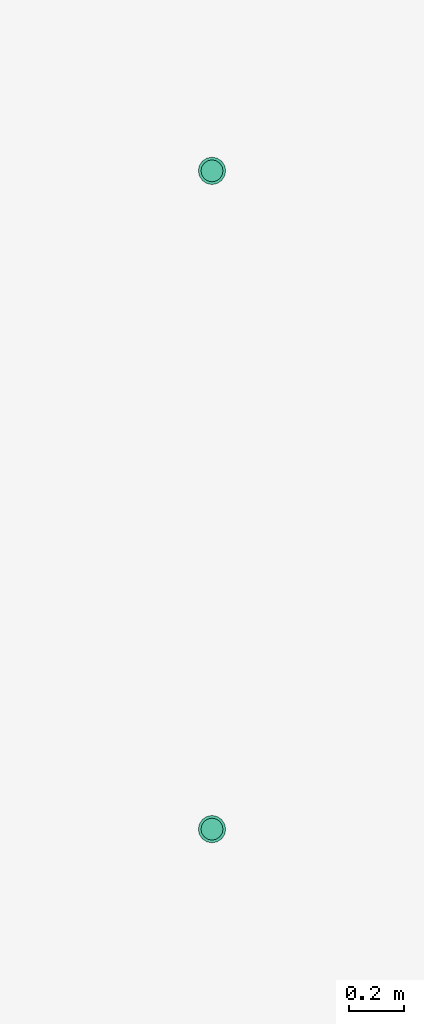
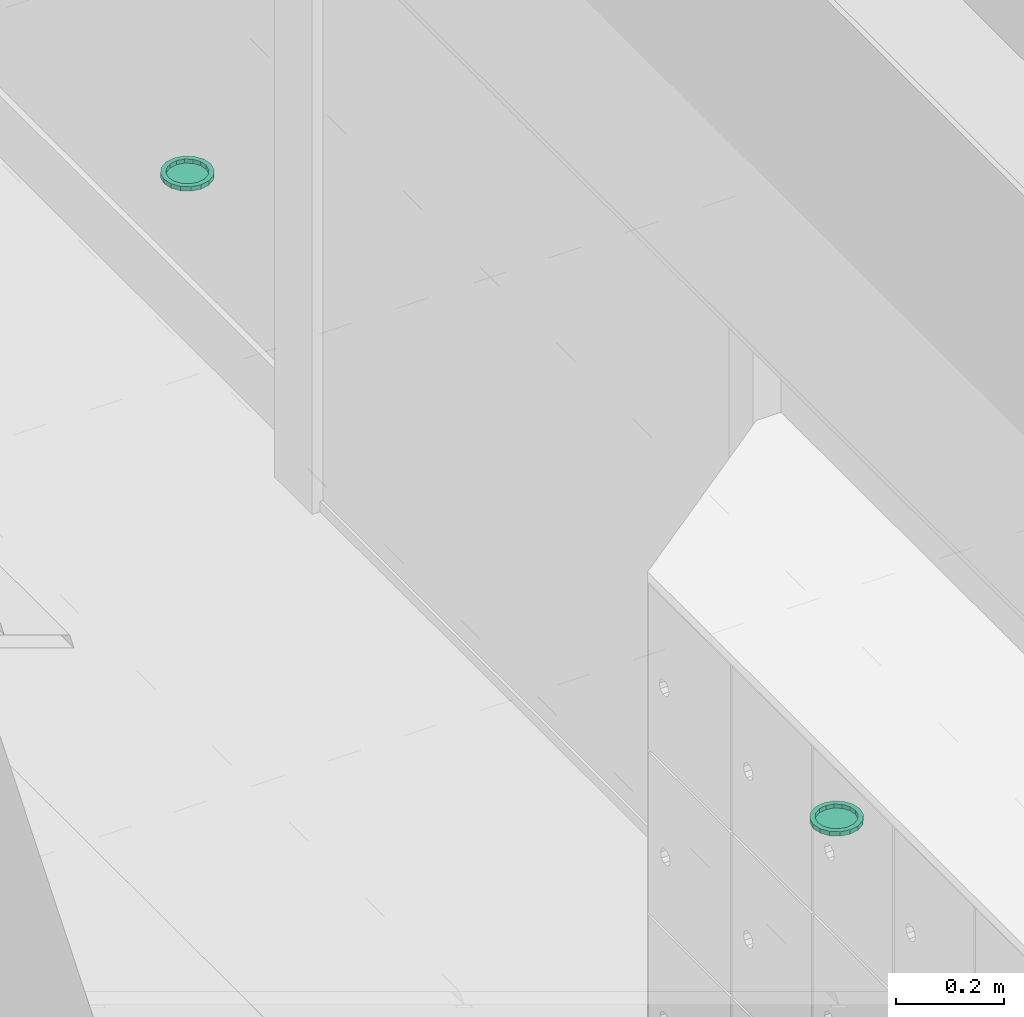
# One storey, part 265 of 347: 2 flow terminals.
"""IFC2X3 building model written with IfcOpenShell, lengths in millimetres."""

from ifc_helpers import new_model, entity, si_unit, converted_unit, derived_unit, money_unit, direction, frame, origin_with_axes, place, context, subcontext, project, spatial, open_shell, faceted_brep, surface_model, source, transform, mapped, type_object, type_shapes, element, save


model = new_model("IFC2X3")

# Units and contexts
model_context = context("Model", 3, precision=0.01, world=origin_with_axes(), true_north=direction((0.0, 1.0)))
plan_context = context("Plan", 3, precision=0.01, world=origin_with_axes(), true_north=direction((0.0, 1.0)))
body_context = subcontext(model_context, "Body", "Model", "MODEL_VIEW")
ifc_project = project(units=[si_unit("LENGTHUNIT", "METRE", prefix="MILLI"), si_unit("AREAUNIT", "SQUARE_METRE"), si_unit("VOLUMEUNIT", "CUBIC_METRE"), converted_unit("PLANEANGLEUNIT", "DEGREE", entity("IfcPlaneAngleMeasure", 0.0174532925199), si_unit("PLANEANGLEUNIT", "RADIAN"), dimensions=[0, 0, 0, 0, 0, 0, 0]), money_unit("EUR"), converted_unit("TIMEUNIT", "Year", entity("IfcTimeMeasure", 31556926.0), si_unit("TIMEUNIT", "SECOND"), dimensions=[0, 0, 1, 0, 0, 0, 0]), si_unit("MASSUNIT", "GRAM", prefix="KILO"), si_unit("THERMODYNAMICTEMPERATUREUNIT", "DEGREE_CELSIUS"), si_unit("LUMINOUSINTENSITYUNIT", "LUMEN"), si_unit("ENERGYUNIT", "JOULE", prefix="MEGA"), derived_unit("THERMALCONDUCTANCEUNIT", [(si_unit("POWERUNIT", "WATT"), 1), (si_unit("LENGTHUNIT", "METRE"), -1), (si_unit("THERMODYNAMICTEMPERATUREUNIT", "KELVIN"), -1)]), derived_unit("SPECIFICHEATCAPACITYUNIT", [(si_unit("ENERGYUNIT", "JOULE"), 1), (si_unit("MASSUNIT", "GRAM", prefix="KILO"), -1), (si_unit("THERMODYNAMICTEMPERATUREUNIT", "KELVIN"), -1)]), derived_unit("MASSDENSITYUNIT", [(si_unit("MASSUNIT", "GRAM", prefix="KILO"), 1), (si_unit("VOLUMEUNIT", "CUBIC_METRE"), -1)])], contexts=[model_context, plan_context])

# Site, building, storey
site_placement = place(None, origin_with_axes())
site = spatial("IfcSite", under=ifc_project, at=site_placement, Name="Site", CompositionType="ELEMENT")
building_placement = place(site_placement, origin_with_axes())
building = spatial("IfcBuilding", under=site, at=building_placement, Name="Naam gebouw", CompositionType="ELEMENT")
storey_placement = place(building_placement, origin_with_axes())
storey = spatial("IfcBuildingStorey", under=building, at=storey_placement, Name="begane grond", CompositionType="ELEMENT", Elevation=0.0)

# Flow terminals
lamp_type = type_object("IfcLampType", Name="Spot plafond 01 25", PredefinedType="NOTDEFINED")
shared_shape = source(origin_with_axes(), body_context, "Body", "SurfaceModel", [
    faceted_brep([(50.0, 0.0, -10.0), (46.1939766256, 19.1341716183, -10.0), (46.1939766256, 19.1341716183, 0.0), (50.0, 0.0, 0.0), (46.1939766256, -19.1341716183, -10.0), (35.3553390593, -35.3553390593, -10.0), (19.1341716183, -46.1939766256, -10.0), (0.0, -50.0, -10.0), (-19.1341716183, -46.1939766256, -10.0), (-35.3553390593, -35.3553390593, -10.0), (-46.1939766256, -19.1341716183, -10.0), (-50.0, 0.0, -10.0), (-46.1939766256, 19.1341716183, -10.0), (-35.3553390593, 35.3553390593, -10.0), (-19.1341716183, 46.1939766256, -10.0), (0.0, 50.0, -10.0), (19.1341716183, 46.1939766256, -10.0), (35.3553390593, 35.3553390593, -10.0), (40.0, 0.0, -10.0), (36.9551813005, 15.3073372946, -10.0), (28.2842712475, 28.2842712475, -10.0), (15.3073372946, 36.9551813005, -10.0), (0.0, 40.0, -10.0), (-15.3073372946, 36.9551813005, -10.0), (-28.2842712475, 28.2842712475, -10.0), (-36.9551813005, 15.3073372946, -10.0), (-40.0, 0.0, -10.0), (-36.9551813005, -15.3073372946, -10.0), (-28.2842712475, -28.2842712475, -10.0), (-15.3073372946, -36.9551813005, -10.0), (0.0, -40.0, -10.0), (15.3073372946, -36.9551813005, -10.0), (28.2842712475, -28.2842712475, -10.0), (36.9551813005, -15.3073372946, -10.0), (35.3553390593, 35.3553390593, 0.0), (19.1341716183, 46.1939766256, 0.0), (0.0, 50.0, 0.0), (-19.1341716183, 46.1939766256, 0.0), (-35.3553390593, 35.3553390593, 0.0), (-46.1939766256, 19.1341716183, 0.0), (-50.0, 0.0, 0.0), (-46.1939766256, -19.1341716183, 0.0), (-35.3553390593, -35.3553390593, 0.0), (-19.1341716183, -46.1939766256, 0.0), (0.0, -50.0, 0.0), (19.1341716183, -46.1939766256, 0.0), (35.3553390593, -35.3553390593, 0.0), (46.1939766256, -19.1341716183, 0.0), (40.0, 0.0, 0.0), (36.9551813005, -15.3073372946, 0.0), (28.2842712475, -28.2842712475, 0.0), (15.3073372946, -36.9551813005, 0.0), (0.0, -40.0, 0.0), (-15.3073372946, -36.9551813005, 0.0), (-28.2842712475, -28.2842712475, 0.0), (-36.9551813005, -15.3073372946, 0.0), (-40.0, 0.0, 0.0), (-36.9551813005, 15.3073372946, 0.0), (-28.2842712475, 28.2842712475, 0.0), (-15.3073372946, 36.9551813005, 0.0), (0.0, 40.0, 0.0), (15.3073372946, 36.9551813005, 0.0), (28.2842712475, 28.2842712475, 0.0), (36.9551813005, 15.3073372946, 0.0)], [[[0, 1, 2, 3]], [[0, 4, 5, 6, 7, 8, 9, 10, 11, 12, 13, 14, 15, 16, 17, 1], [18, 19, 20, 21, 22, 23, 24, 25, 26, 27, 28, 29, 30, 31, 32, 33]], [[1, 17, 34, 2]], [[3, 2, 34, 35, 36, 37, 38, 39, 40, 41, 42, 43, 44, 45, 46, 47], [48, 49, 50, 51, 52, 53, 54, 55, 56, 57, 58, 59, 60, 61, 62, 63]], [[4, 0, 3, 47]], [[5, 4, 47, 46]], [[6, 5, 46, 45]], [[7, 6, 45, 44]], [[8, 7, 44, 43]], [[9, 8, 43, 42]], [[10, 9, 42, 41]], [[11, 10, 41, 40]], [[12, 11, 40, 39]], [[13, 12, 39, 38]], [[14, 13, 38, 37]], [[15, 14, 37, 36]], [[16, 15, 36, 35]], [[17, 16, 35, 34]], [[19, 18, 48, 63]], [[20, 19, 63, 62]], [[21, 20, 62, 61]], [[22, 21, 61, 60]], [[23, 22, 60, 59]], [[24, 23, 59, 58]], [[25, 24, 58, 57]], [[26, 25, 57, 56]], [[27, 26, 56, 55]], [[28, 27, 55, 54]], [[29, 28, 54, 53]], [[30, 29, 53, 52]], [[31, 30, 52, 51]], [[32, 31, 51, 50]], [[33, 32, 50, 49]], [[18, 33, 49, 48]]]),
    surface_model("IfcShellBasedSurfaceModel", [(40.0, 0.0, -8.9), (36.9551813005, -15.3073372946, -8.9), (28.2842712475, -28.2842712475, -8.9), (15.3073372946, -36.9551813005, -8.9), (0.0, -40.0, -8.9), (-15.3073372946, -36.9551813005, -8.9), (-28.2842712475, -28.2842712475, -8.9), (-36.9551813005, -15.3073372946, -8.9), (-40.0, 0.0, -8.9), (-36.9551813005, 15.3073372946, -8.9), (-28.2842712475, 28.2842712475, -8.9), (-15.3073372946, 36.9551813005, -8.9), (0.0, 40.0, -8.9), (15.3073372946, 36.9551813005, -8.9), (28.2842712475, 28.2842712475, -8.9), (36.9551813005, 15.3073372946, -8.9)], [open_shell([[[0, 1, 2, 3, 4, 5, 6, 7, 8, 9, 10, 11, 12, 13, 14, 15]]])]),
])
type_shapes(lamp_type, [shared_shape])
for number, where, z_axis, x_axis, name in (
    (1, (46155.0, 31424.9999638, 3000.0), (0.0, 0.0, 1.0), (1.0, 0.0, 0.0), "63_Lamp-x"),
    (2, (46155.0, 29024.9999638, 3000.0), (0.0, 0.0, 1.0), (1.0, 0.0, 0.0), "63_Lamp-x"),
):
    element("IfcFlowTerminal", number, at=place(storey_placement, frame(where, z_axis=z_axis, x_axis=x_axis)), inside=storey, type_object=lamp_type, Name=name, ObjectType="Lamp", context=body_context, shape_type="MappedRepresentation", body=[
        mapped(shared_shape, transform((0.0, 0.0, 0.0))),
    ])

save(model, "model.ifc")
